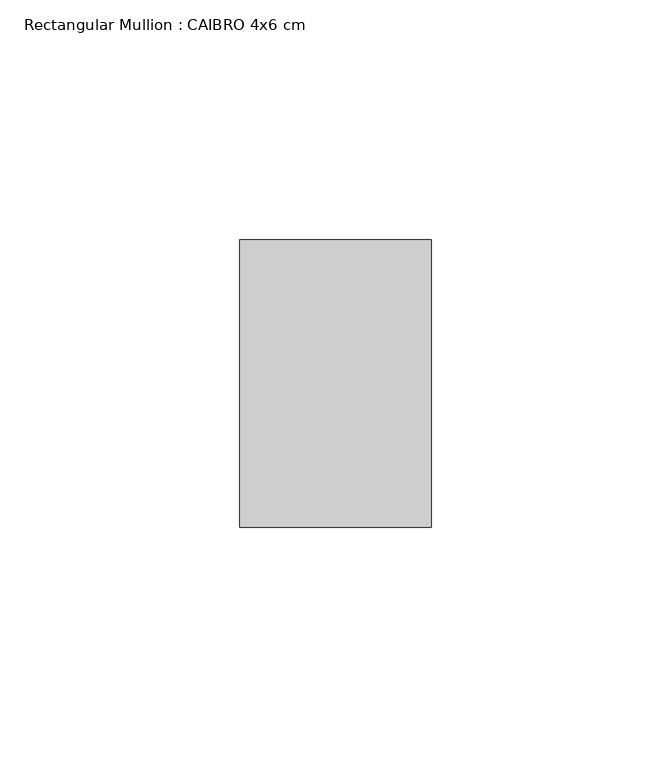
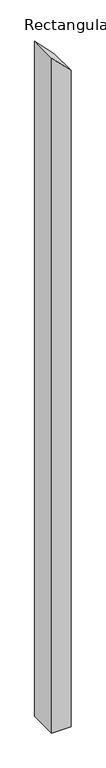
"""IFC4 building model written with IfcOpenShell, lengths in millimetres: member geometry, Rectangular Mullion : CAIBRO 4x6 cm."""

from ifc_helpers import new_model, si_unit, frame, origin, place, context, project, spatial, polyline, outline, extrude, source, transform, mapped, element, save


def rectangular_mullion_caibro_4x6_cm_96c7bf39(model_context):
    return source(origin(), model_context, "Body", "SweptSolid", [
        extrude(outline(polyline([(-77.109599, 20.0), (-36.6621022, -20.0), (-1495.1847485, -20.0), (-1495.1847485, 20.0), (-77.109599, 20.0)])), frame((0.0, 0.0, 0.0), z_axis=(0.0, 1.0, 0.0), x_axis=(0.0, 0.0, 1.0)), (0.0, 0.0, 1.0), 60.0),
    ])


if __name__ == "__main__":
    model = new_model("IFC4")
    model_context = context("Model", 3, world=origin())
    ifc_project = project(units=[si_unit("LENGTHUNIT", "METRE", prefix="MILLI")], contexts=[model_context])
    site = spatial("IfcSite", under=ifc_project)
    building = spatial("IfcBuilding", under=site)
    placement = place(None, origin())
    rectangular_mullion_caibro_4x6_cm_shape = rectangular_mullion_caibro_4x6_cm_96c7bf39(model_context)
    element("IfcMember", 1, ObjectType="Rectangular Mullion : CAIBRO 4x6 cm", at=placement, inside=building, context=model_context, shape_type="MappedRepresentation", body=[
        mapped(rectangular_mullion_caibro_4x6_cm_shape, transform((0.0, 0.0, 0.0), x_axis=(1.0, 0.0, 0.0), y_axis=(0.0, 1.0, 0.0), z_axis=(0.0, 0.0, 1.0))),
    ])
    save(model, "model.ifc")
